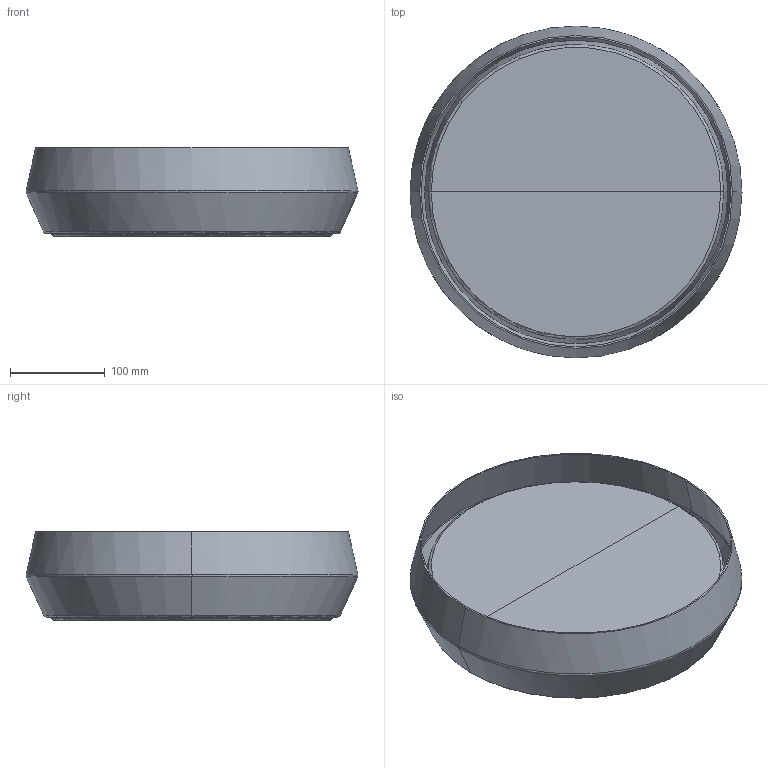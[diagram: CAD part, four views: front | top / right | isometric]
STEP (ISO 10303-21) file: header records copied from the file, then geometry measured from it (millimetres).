
FILE_DESCRIPTION(/* description */ (''),/* implementation_level */ '2;1');
FILE_NAME(/* name */ '40095.step',/* time_stamp */ '2024-06-04T13:18:42+02:00',/* author */ ('RenataManzini'),/* organization */ (''),/* preprocessor_version */ 'ST-DEVELOPER v20',/* originating_system */ 'AutoCAD Mechanical',/* authorisation */ '');
FILE_SCHEMA (('AUTOMOTIVE_DESIGN { 1 0 10303 214 3 1 1 }'));
Length unit declared in the file: millimetre
Products named in the file (2): Product; SHOKU_350 - lamp-206355-Export
Assembly tree (1 placements, depth 2):
  Product
    SHOKU_350 - lamp-206355-Export
Bounding box: 349.99 x 349.98 x 93 mm (x, y, z)
Volume: 2944638.6 mm3; surface area: 876230.2 mm2
Topology: 3 solids, 4 shells, 175 faces, 383 edges, 233 vertices
Faces by surface type: plane 63, cylinder 62, torus 30, cone 16, bspline 4
Entity records: 9236 total; most frequent: CARTESIAN_POINT 5375, DIRECTION 810, ORIENTED_EDGE 760, EDGE_CURVE 380, AXIS2_PLACEMENT_3D 331, VERTEX_POINT 228, EDGE_LOOP 202, FACE_OUTER_BOUND 175
